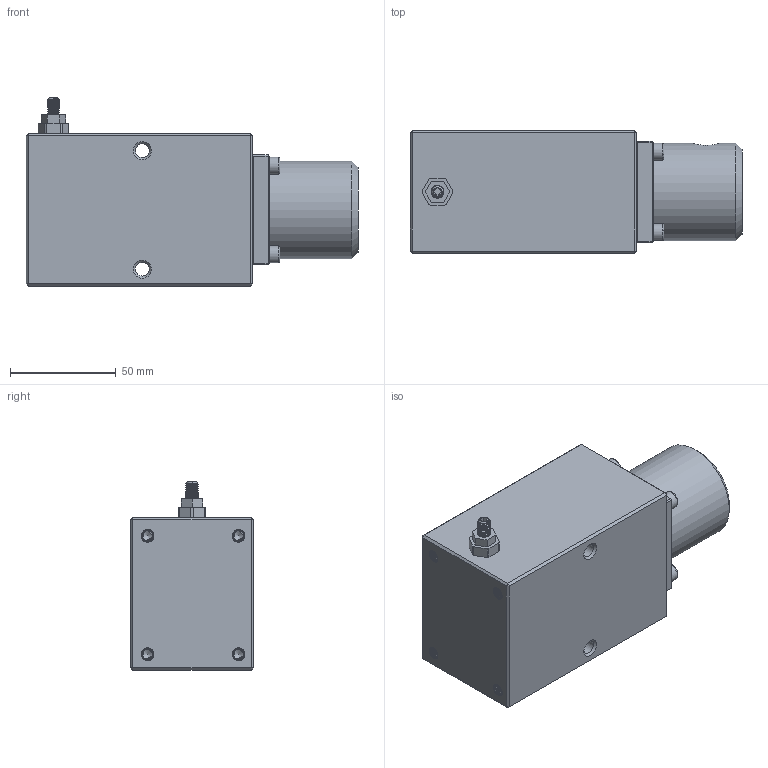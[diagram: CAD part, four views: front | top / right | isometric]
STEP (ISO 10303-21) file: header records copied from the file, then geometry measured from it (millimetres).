
FILE_DESCRIPTION(/* description */ (''),/* implementation_level */ '2;1');
FILE_NAME(/* name */ 'HB-_9-6__x_t.stp',/* time_stamp */ '2015-06-02T10:24:38+08:00',/* author */ (''),/* organization */ (''),/* preprocessor_version */ 'ST-DEVELOPER v14',/* originating_system */ 'SIEMENS PLM Software NX 8.0',/* authorisation */ '');
FILE_SCHEMA (('AUTOMOTIVE_DESIGN { 1 0 10303 214 3 1 1 1 }'));
Products named in the file (1): HB-_9-6__x_t
Bounding box: 157 x 58 x 89 mm (x, y, z)
Volume: 521767.1 mm3; surface area: 61630.8 mm2
Topology: 5 solids, 5 shells, 219 faces, 559 edges, 361 vertices
Faces by surface type: plane 116, cylinder 45, bspline 34, cone 20, torus 4
Full cylindrical faces by diameter (mm): 6.5 x2, 8 x4, 11 x8, 46 x1
Entity records: 37291 total; most frequent: CARTESIAN_POINT 32152, ORIENTED_EDGE 994, DIRECTION 758, EDGE_CURVE 497, VERTEX_POINT 339, LINE 256, VECTOR 256, EDGE_LOOP 255
